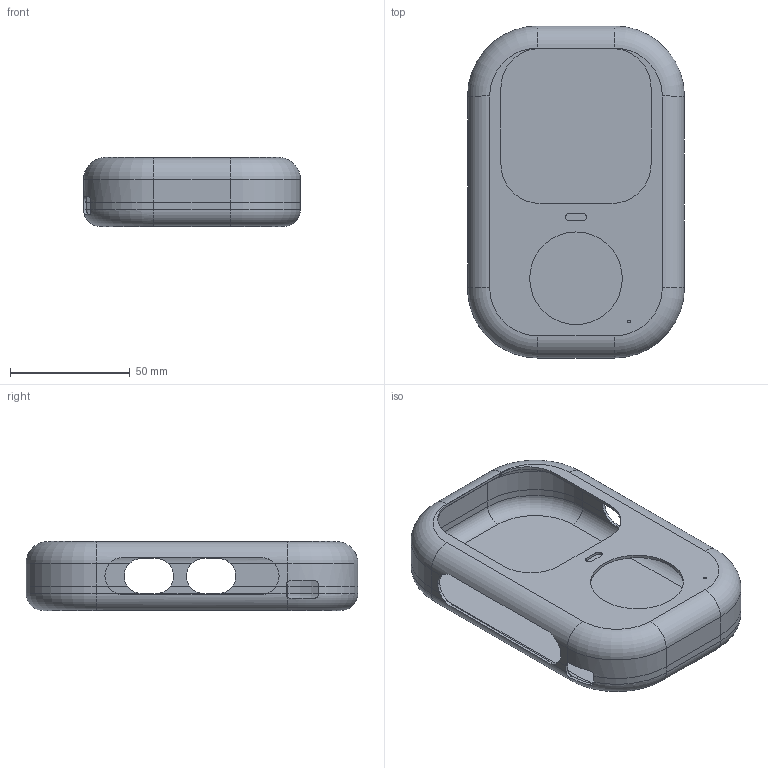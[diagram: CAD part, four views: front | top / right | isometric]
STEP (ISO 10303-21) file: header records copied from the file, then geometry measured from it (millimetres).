
FILE_DESCRIPTION(/* description */ (''),/* implementation_level */ '2;1');
FILE_NAME(/* name */ '02_Soft_grips.step',/* time_stamp */ '2026-09-08T11:10:42-07:00',/* author */ (''),/* organization */ (''),/* preprocessor_version */ 'ST-DEVELOPER v20.1',/* originating_system */ 'Autodesk Translation Framework v15.8.0.0',/* authorisation */ '');
FILE_SCHEMA (('AUTOMOTIVE_DESIGN { 1 0 10303 214 3 1 1 }'));
Length unit declared in the file: centimetre
Products named in the file (1): 2026-09-08-11-10-42-117
Bounding box: 90.4 x 138.4 x 28.8 mm (x, y, z)
Volume: 29752.3 mm3; surface area: 51235 mm2
Topology: 2 solids, 2 shells, 429 faces, 1212 edges, 798 vertices
Faces by surface type: plane 349, cylinder 64, torus 16
Full cylindrical faces by diameter (mm): 1.2 x1, 38.6 x1
Entity records: 13901 total; most frequent: CARTESIAN_POINT 2668, ORIENTED_EDGE 2424, DIRECTION 2180, EDGE_CURVE 1212, LINE 1032, VECTOR 1032, VERTEX_POINT 798, AXIS2_PLACEMENT_3D 574
